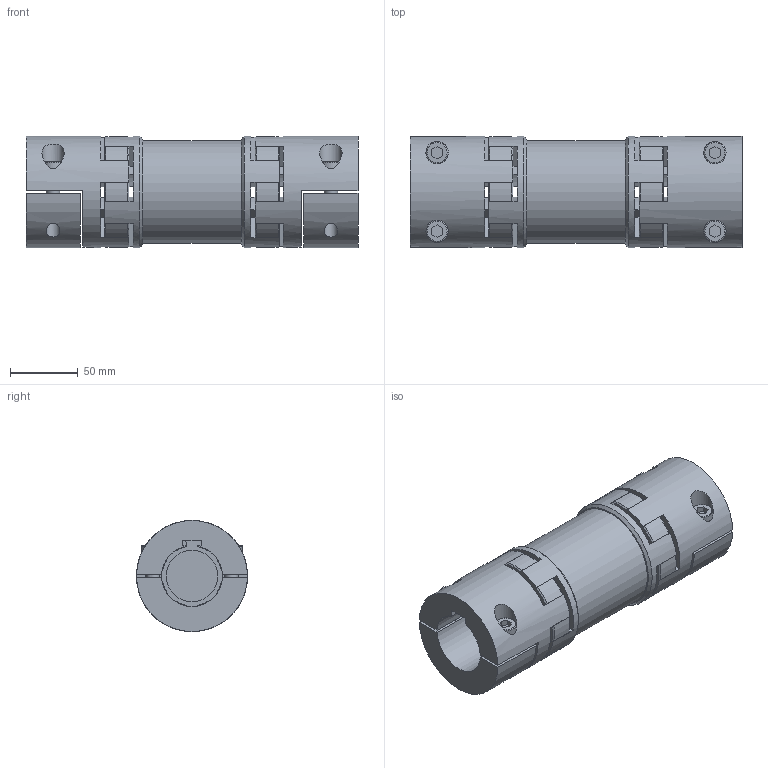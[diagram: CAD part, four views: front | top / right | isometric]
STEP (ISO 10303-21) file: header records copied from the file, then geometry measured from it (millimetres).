
FILE_DESCRIPTION(/* description */ ('STEP AP214'),/* implementation_level */ '2;1');
FILE_NAME(/* name */ 'C:\Diequa Files\DieQua Coupling\LE\STP\LE.300.L.AB.#.#.stp',/* time_stamp */ '2019-05-02T09:33:23-05:00',/* author */ ('DiequaCAD'),/* organization */ (''),/* preprocessor_version */ 'ST-DEVELOPER v18',/* originating_system */ 'Autodesk Inventor 2020',/* authorisation */ ' ');
FILE_SCHEMA (('AUTOMOTIVE_DESIGN { 1 0 10303 214 3 1 1 }'));
Length unit declared in the file: millimetre
Products named in the file (1): EZ2_300_45_PFN_45_PFN_5
Bounding box: 245 x 82 x 82 mm (x, y, z)
Volume: 726726.8 mm3; surface area: 163425 mm2
Topology: 1 solids, 2 shells, 264 faces, 800 edges, 522 vertices
Faces by surface type: plane 144, cylinder 82, cone 34, torus 4
Full cylindrical faces by diameter (mm): 10 x8, 10.5 x4, 16 x4, 16.5 x4, 38 x2, 60.8 x1, 76 x1, 82 x4
Entity records: 12092 total; most frequent: CARTESIAN_POINT 4543, ORIENTED_EDGE 1600, DIRECTION 1562, EDGE_CURVE 800, LINE 544, VECTOR 544, VERTEX_POINT 522, AXIS2_PLACEMENT_3D 509
